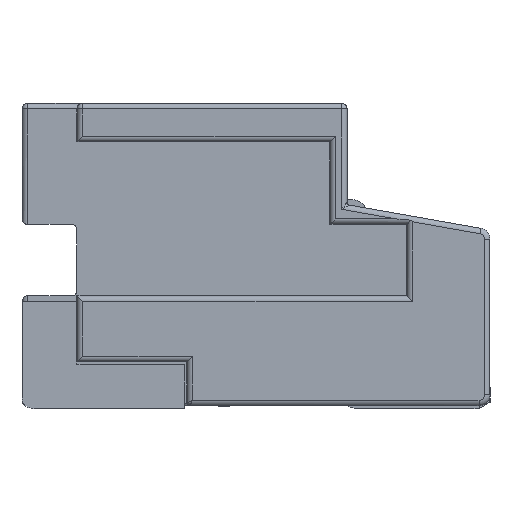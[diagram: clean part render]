
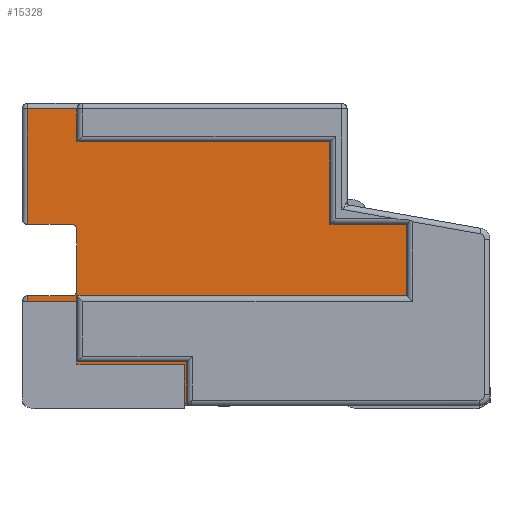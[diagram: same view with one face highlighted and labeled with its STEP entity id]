
A CAD part, left-side view. The second image highlights one B-rep face of the part: STEP entity #15328.
In plain terms, the highlighted planar face has unit normal (-1, 0, 0).
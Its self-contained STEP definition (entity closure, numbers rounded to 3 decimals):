
#147 = LINE ( 'NONE', #30117, #3376 ) ;
#283 = EDGE_CURVE ( 'NONE', #34690, #15869, #19890, .T. ) ;
#803 = VERTEX_POINT ( 'NONE', #9873 ) ;
#1161 = DIRECTION ( 'NONE',  ( 0., 1., 0. ) ) ;
#1344 = LINE ( 'NONE', #30612, #38531 ) ;
#1542 = EDGE_CURVE ( 'NONE', #33422, #35804, #17437, .T. ) ;
#1947 = DIRECTION ( 'NONE',  ( 0., 0., 1. ) ) ;
#2540 = ORIENTED_EDGE ( 'NONE', *, *, #18596, .T. ) ;
#2793 = DIRECTION ( 'NONE',  ( 0., -1., 0. ) ) ;
#2900 = CARTESIAN_POINT ( 'NONE',  ( -11.1, 4.155, 2. ) ) ;
#3093 = CARTESIAN_POINT ( 'NONE',  ( -11.1, 3.255, 0. ) ) ;
#3152 = VECTOR ( 'NONE', #2793, 1000. ) ;
#3207 = EDGE_CURVE ( 'NONE', #5750, #803, #1344, .T. ) ;
#3376 = VECTOR ( 'NONE', #7937, 1000. ) ;
#3731 = ORIENTED_EDGE ( 'NONE', *, *, #44972, .F. ) ;
#3759 = VECTOR ( 'NONE', #26911, 1000. ) ;
#5619 = LINE ( 'NONE', #43166, #16371 ) ;
#5682 = EDGE_CURVE ( 'NONE', #35454, #24284, #5619, .T. ) ;
#5750 = VERTEX_POINT ( 'NONE', #29481 ) ;
#7040 = ORIENTED_EDGE ( 'NONE', *, *, #9901, .T. ) ;
#7279 = DIRECTION ( 'NONE',  ( 0., -1., 0. ) ) ;
#7879 = DIRECTION ( 'NONE',  ( 0., 0., -1. ) ) ;
#7937 = DIRECTION ( 'NONE',  ( 0., 1., 0. ) ) ;
#8177 = CARTESIAN_POINT ( 'NONE',  ( -11.1, 4.155, 3.3 ) ) ;
#8294 = CARTESIAN_POINT ( 'NONE',  ( -11.1, 4.155, 5.4 ) ) ;
#8351 = LINE ( 'NONE', #30777, #46059 ) ;
#8424 = DIRECTION ( 'NONE',  ( 0., 0., 1. ) ) ;
#8543 = AXIS2_PLACEMENT_3D ( 'NONE', #31164, #16492, #30917 ) ;
#9375 = CARTESIAN_POINT ( 'NONE',  ( -11.1, 1.255, 0.05 ) ) ;
#9682 = CARTESIAN_POINT ( 'NONE',  ( -11.1, 3.355, 3.3 ) ) ;
#9873 = CARTESIAN_POINT ( 'NONE',  ( -11.1, -1.345, 4.8 ) ) ;
#9895 = AXIS2_PLACEMENT_3D ( 'NONE', #34308, #35284, #27477 ) ;
#9901 = EDGE_CURVE ( 'NONE', #33422, #35454, #10904, .T. ) ;
#10463 = ORIENTED_EDGE ( 'NONE', *, *, #1542, .F. ) ;
#10904 = LINE ( 'NONE', #25762, #21505 ) ;
#11320 = LINE ( 'NONE', #26167, #36036 ) ;
#11449 = PLANE ( 'NONE',  #38403 ) ;
#11663 = VECTOR ( 'NONE', #44058, 1000. ) ;
#12043 = VECTOR ( 'NONE', #44674, 1000. ) ;
#12198 = CARTESIAN_POINT ( 'NONE',  ( -11.1, 4.155, 0. ) ) ;
#12514 = ORIENTED_EDGE ( 'NONE', *, *, #32319, .T. ) ;
#12563 = LINE ( 'NONE', #27453, #30330 ) ;
#12814 = VERTEX_POINT ( 'NONE', #35961 ) ;
#14392 = ORIENTED_EDGE ( 'NONE', *, *, #283, .F. ) ;
#14515 = ORIENTED_EDGE ( 'NONE', *, *, #30098, .T. ) ;
#14667 = EDGE_CURVE ( 'NONE', #30082, #19655, #19142, .T. ) ;
#14767 = DIRECTION ( 'NONE',  ( 0., 0., -1. ) ) ;
#14874 = LINE ( 'NONE', #8294, #12043 ) ;
#15112 = LINE ( 'NONE', #12198, #22923 ) ;
#15272 = ORIENTED_EDGE ( 'NONE', *, *, #5682, .T. ) ;
#15277 = CARTESIAN_POINT ( 'NONE',  ( -11.1, 1.255, 0.8 ) ) ;
#15328 = ADVANCED_FACE ( 'NONE', ( #25836 ), #11449, .F. ) ;
#15869 = VERTEX_POINT ( 'NONE', #8177 ) ;
#16060 = EDGE_CURVE ( 'NONE', #38001, #35804, #26175, .T. ) ;
#16260 = CARTESIAN_POINT ( 'NONE',  ( -11.1, 3.355, 2. ) ) ;
#16371 = VECTOR ( 'NONE', #1947, 1000. ) ;
#16492 = DIRECTION ( 'NONE',  ( 1., 0., 0. ) ) ;
#16591 = LINE ( 'NONE', #23701, #23780 ) ;
#17437 = LINE ( 'NONE', #3093, #11663 ) ;
#17904 = EDGE_CURVE ( 'NONE', #26257, #38001, #12563, .T. ) ;
#18011 = DIRECTION ( 'NONE',  ( 0., 0., -1. ) ) ;
#18297 = VERTEX_POINT ( 'NONE', #29895 ) ;
#18596 = EDGE_CURVE ( 'NONE', #34119, #15869, #8351, .T. ) ;
#19142 = LINE ( 'NONE', #37223, #19671 ) ;
#19505 = EDGE_CURVE ( 'NONE', #24284, #5750, #16591, .T. ) ;
#19655 = VERTEX_POINT ( 'NONE', #35180 ) ;
#19671 = VECTOR ( 'NONE', #14767, 1000. ) ;
#19890 = LINE ( 'NONE', #26784, #27797 ) ;
#19945 = ORIENTED_EDGE ( 'NONE', *, *, #37445, .T. ) ;
#20297 = CARTESIAN_POINT ( 'NONE',  ( -11.1, 3.255, 0.8 ) ) ;
#20681 = ORIENTED_EDGE ( 'NONE', *, *, #30135, .T. ) ;
#21210 = CARTESIAN_POINT ( 'NONE',  ( -11.1, 3.255, 2. ) ) ;
#21321 = ORIENTED_EDGE ( 'NONE', *, *, #37927, .T. ) ;
#21407 = LINE ( 'NONE', #36310, #34872 ) ;
#21505 = VECTOR ( 'NONE', #37940, 1000. ) ;
#21912 = CARTESIAN_POINT ( 'NONE',  ( -11.1, 3.255, 0. ) ) ;
#22474 = DIRECTION ( 'NONE',  ( 0., 0., 1. ) ) ;
#22923 = VECTOR ( 'NONE', #27081, 1000. ) ;
#23701 = CARTESIAN_POINT ( 'NONE',  ( -11.1, -2.745, 3.3 ) ) ;
#23780 = VECTOR ( 'NONE', #43002, 1000. ) ;
#24284 = VERTEX_POINT ( 'NONE', #45176 ) ;
#24719 = LINE ( 'NONE', #36195, #3152 ) ;
#25156 = CARTESIAN_POINT ( 'NONE',  ( -11.1, 4.155, 0.05 ) ) ;
#25762 = CARTESIAN_POINT ( 'NONE',  ( -11.1, 3.255, 2. ) ) ;
#25836 = FACE_OUTER_BOUND ( 'NONE', #37066, .T. ) ;
#26167 = CARTESIAN_POINT ( 'NONE',  ( -11.1, 3.255, 2. ) ) ;
#26175 = LINE ( 'NONE', #41056, #3759 ) ;
#26257 = VERTEX_POINT ( 'NONE', #9375 ) ;
#26317 = DIRECTION ( 'NONE',  ( 1., 0., 0. ) ) ;
#26784 = CARTESIAN_POINT ( 'NONE',  ( -11.1, 3.255, 3.3 ) ) ;
#26911 = DIRECTION ( 'NONE',  ( 0., 1., 0. ) ) ;
#27081 = DIRECTION ( 'NONE',  ( 0., 0., -1. ) ) ;
#27453 = CARTESIAN_POINT ( 'NONE',  ( -11.1, 1.255, 0. ) ) ;
#27477 = DIRECTION ( 'NONE',  ( 0., 0., -1. ) ) ;
#27797 = VECTOR ( 'NONE', #1161, 1000. ) ;
#28262 = ORIENTED_EDGE ( 'NONE', *, *, #19505, .T. ) ;
#29481 = CARTESIAN_POINT ( 'NONE',  ( -11.1, -1.345, 3.3 ) ) ;
#29895 = CARTESIAN_POINT ( 'NONE',  ( -11.1, 3.255, 2.1 ) ) ;
#30082 = VERTEX_POINT ( 'NONE', #37583 ) ;
#30098 = EDGE_CURVE ( 'NONE', #30082, #34119, #14874, .T. ) ;
#30117 = CARTESIAN_POINT ( 'NONE',  ( -11.1, -1.345, 4.8 ) ) ;
#30135 = EDGE_CURVE ( 'NONE', #46133, #47808, #15112, .T. ) ;
#30330 = VECTOR ( 'NONE', #42331, 1000. ) ;
#30612 = CARTESIAN_POINT ( 'NONE',  ( -11.1, -1.345, 3.3 ) ) ;
#30777 = CARTESIAN_POINT ( 'NONE',  ( -11.1, 4.155, 0. ) ) ;
#30812 = ORIENTED_EDGE ( 'NONE', *, *, #3207, .T. ) ;
#30917 = DIRECTION ( 'NONE',  ( 0., 0., -1. ) ) ;
#31164 = CARTESIAN_POINT ( 'NONE',  ( -11.1, 3.355, 3.2 ) ) ;
#32319 = EDGE_CURVE ( 'NONE', #34690, #12814, #35023, .T. ) ;
#32457 = CARTESIAN_POINT ( 'NONE',  ( -11.1, -2.745, 2. ) ) ;
#33422 = VERTEX_POINT ( 'NONE', #21210 ) ;
#34045 = EDGE_CURVE ( 'NONE', #803, #19655, #147, .T. ) ;
#34119 = VERTEX_POINT ( 'NONE', #42790 ) ;
#34308 = CARTESIAN_POINT ( 'NONE',  ( -11.1, 3.355, 2.1 ) ) ;
#34690 = VERTEX_POINT ( 'NONE', #9682 ) ;
#34872 = VECTOR ( 'NONE', #7279, 1000. ) ;
#35023 = CIRCLE ( 'NONE', #8543, 0.1 ) ;
#35180 = CARTESIAN_POINT ( 'NONE',  ( -11.1, 3.255, 4.8 ) ) ;
#35284 = DIRECTION ( 'NONE',  ( 1., 0., 0. ) ) ;
#35454 = VERTEX_POINT ( 'NONE', #32457 ) ;
#35804 = VERTEX_POINT ( 'NONE', #20297 ) ;
#35961 = CARTESIAN_POINT ( 'NONE',  ( -11.1, 3.255, 3.2 ) ) ;
#36036 = VECTOR ( 'NONE', #22474, 1000. ) ;
#36195 = CARTESIAN_POINT ( 'NONE',  ( -11.1, 3.255, 2. ) ) ;
#36310 = CARTESIAN_POINT ( 'NONE',  ( -11.1, 3.255, 0.05 ) ) ;
#37066 = EDGE_LOOP ( 'NONE', ( #20681, #21321, #39612, #45624, #10463, #7040, #15272, #28262, #30812, #41957, #39108, #14515, #2540, #14392, #12514, #45793, #19945, #3731 ) ) ;
#37223 = CARTESIAN_POINT ( 'NONE',  ( -11.1, 3.255, 0. ) ) ;
#37445 = EDGE_CURVE ( 'NONE', #18297, #47202, #41807, .T. ) ;
#37583 = CARTESIAN_POINT ( 'NONE',  ( -11.1, 3.255, 5.4 ) ) ;
#37927 = EDGE_CURVE ( 'NONE', #47808, #26257, #21407, .T. ) ;
#37940 = DIRECTION ( 'NONE',  ( 0., -1., 0. ) ) ;
#38001 = VERTEX_POINT ( 'NONE', #15277 ) ;
#38403 = AXIS2_PLACEMENT_3D ( 'NONE', #21912, #26317, #18011 ) ;
#38531 = VECTOR ( 'NONE', #8424, 1000. ) ;
#39108 = ORIENTED_EDGE ( 'NONE', *, *, #14667, .F. ) ;
#39612 = ORIENTED_EDGE ( 'NONE', *, *, #17904, .T. ) ;
#41056 = CARTESIAN_POINT ( 'NONE',  ( -11.1, 3.255, 0.8 ) ) ;
#41807 = CIRCLE ( 'NONE', #9895, 0.1 ) ;
#41957 = ORIENTED_EDGE ( 'NONE', *, *, #34045, .T. ) ;
#42331 = DIRECTION ( 'NONE',  ( 0., 0., 1. ) ) ;
#42790 = CARTESIAN_POINT ( 'NONE',  ( -11.1, 4.155, 5.4 ) ) ;
#43002 = DIRECTION ( 'NONE',  ( 0., 1., 0. ) ) ;
#43166 = CARTESIAN_POINT ( 'NONE',  ( -11.1, -2.745, 2. ) ) ;
#44058 = DIRECTION ( 'NONE',  ( 0., 0., -1. ) ) ;
#44674 = DIRECTION ( 'NONE',  ( 0., 1., 0. ) ) ;
#44972 = EDGE_CURVE ( 'NONE', #46133, #47202, #24719, .T. ) ;
#45176 = CARTESIAN_POINT ( 'NONE',  ( -11.1, -2.745, 3.3 ) ) ;
#45624 = ORIENTED_EDGE ( 'NONE', *, *, #16060, .T. ) ;
#45793 = ORIENTED_EDGE ( 'NONE', *, *, #47517, .F. ) ;
#46059 = VECTOR ( 'NONE', #7879, 1000. ) ;
#46133 = VERTEX_POINT ( 'NONE', #2900 ) ;
#47202 = VERTEX_POINT ( 'NONE', #16260 ) ;
#47517 = EDGE_CURVE ( 'NONE', #18297, #12814, #11320, .T. ) ;
#47808 = VERTEX_POINT ( 'NONE', #25156 ) ;
